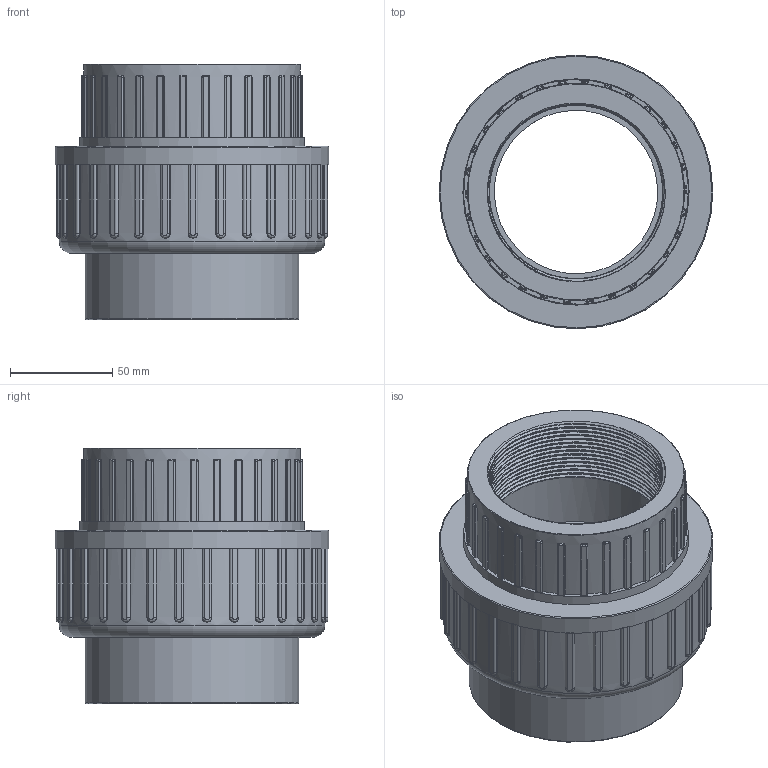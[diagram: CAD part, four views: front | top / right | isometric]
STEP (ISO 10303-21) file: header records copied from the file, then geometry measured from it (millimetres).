
FILE_DESCRIPTION(/* description */ (''),/* implementation_level */ '2;1');
FILE_NAME(/* name */ 'C:\Users\POLYPIPE\Desktop\DATASET INVENTOR\LIBRERIA EFFAST\3D_RACCORDI\RGR\3D_RGRBOG\3D_RGRBOG090I.stp',/* time_stamp */ '2018-01-22T14:35:23+01:00',/* author */ ('POLYPIPE'),/* organization */ (''),/* preprocessor_version */ 'ST-DEVELOPER v16.1',/* originating_system */ 'Autodesk Inventor 2016',/* authorisation */ '');
FILE_SCHEMA (('CONFIG_CONTROL_DESIGN'));
Length unit declared in the file: centimetre
Products named in the file (1): 3D_RGRBOG
Bounding box: 134 x 134 x 125 mm (x, y, z)
Volume: 599166.8 mm3; surface area: 142555.9 mm2
Topology: 1 solids, 1 shells, 575 faces, 1533 edges, 970 vertices
Faces by surface type: cylinder 252, plane 223, bspline 95, torus 4, cone 1
Full cylindrical faces by diameter (mm): 80 x1, 84.926 x1, 85 x1, 90 x1, 104.7 x1, 105 x1, 106.2 x1, 110 x1, 110.072 x1, 110.8 x1, 130 x1, 134 x1
Entity records: 24989 total; most frequent: CARTESIAN_POINT 10279, ORIENTED_EDGE 3030, DIRECTION 2943, EDGE_CURVE 1515, AXIS2_PLACEMENT_3D 1080, VERTEX_POINT 968, LINE 783, VECTOR 783
